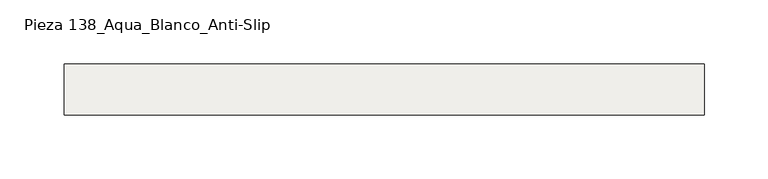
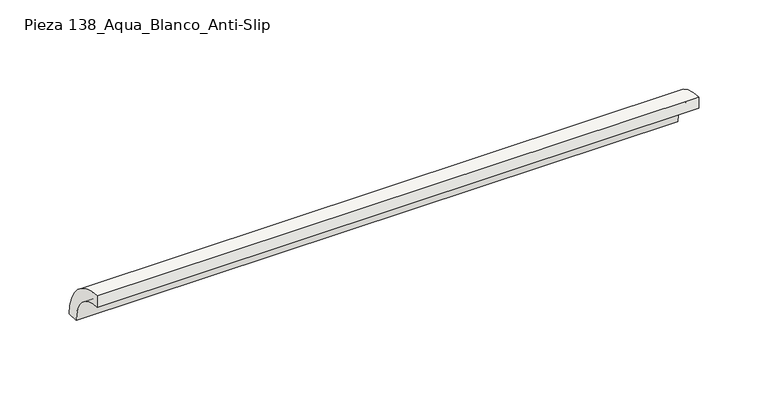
"""IFC4 building model written with IfcOpenShell, lengths in millimetres: slab geometry, ROSA GRES_138 : Pieza 138_Aqua_Blanco_Anti-Slip."""

from ifc_helpers import new_model, si_unit, point, frame, frame_2d, origin, origin_2d, place, context, project, spatial, polyline, circle_curve, trimmed, segment, composite_curve, outline, extrude, source, transform, mapped, element, save


def pieza_138_aqua_blanco_anti_slip_2ac640d3(model_context):
    return source(origin(), model_context, "Body", "SweptSolid", [
        extrude(outline(composite_curve([segment(trimmed(circle_curve(origin_2d(), 40.0), [point((0.0, 40.0))], [point((40.0, 0.0))], False, "CARTESIAN"), True, "CONTINUOUS"), segment(polyline([(40.0, 0.0), (30.0265886, 0.0)]), True, "CONTINUOUS"), segment(trimmed(circle_curve(frame_2d((0.0044453, 0.0044453)), 30.0221435), [point((30.0265886, 0.0))], [point((0.0, 30.0265886))], True, "CARTESIAN"), True, "CONTINUOUS"), segment(polyline([(0.0, 30.0265886), (0.0, 40.0)]), True, "CONTINUOUS")], self_intersect=False)), frame((0.0, 0.0, 0.0), z_axis=(1.0, 0.0, 0.0), x_axis=(0.0, 1.0, 0.0)), (0.0, 0.0, 1.0), 500.0),
    ])


if __name__ == "__main__":
    model = new_model("IFC4")
    model_context = context("Model", 3, world=origin())
    ifc_project = project(units=[si_unit("LENGTHUNIT", "METRE", prefix="MILLI")], contexts=[model_context])
    site = spatial("IfcSite", under=ifc_project)
    building = spatial("IfcBuilding", under=site)
    placement = place(None, origin())
    pieza_138_aqua_blanco_anti_slip_shape = pieza_138_aqua_blanco_anti_slip_2ac640d3(model_context)
    element("IfcSlab", 1, ObjectType="ROSA GRES_138 : Pieza 138_Aqua_Blanco_Anti-Slip", at=placement, inside=building, context=model_context, shape_type="MappedRepresentation", body=[
        mapped(pieza_138_aqua_blanco_anti_slip_shape, transform((0.0, 0.0, 0.0), x_axis=(1.0, 0.0, 0.0), y_axis=(0.0, 1.0, 0.0), z_axis=(0.0, 0.0, 1.0))),
    ])
    save(model, "model.ifc")
